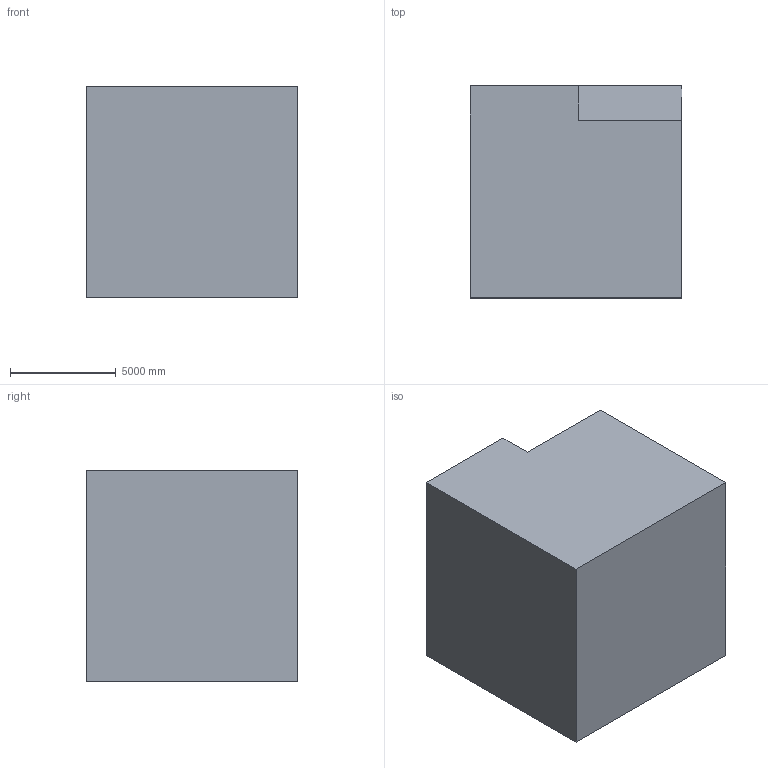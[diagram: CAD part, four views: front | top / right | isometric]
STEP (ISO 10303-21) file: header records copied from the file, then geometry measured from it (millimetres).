
FILE_DESCRIPTION (( 'STEP AP203' ), '1' );
FILE_NAME ('110.STEP', '2022-07-28T13:38:23', ( 'user' ), ( '' ), 'SwSTEP 2.0', 'SolidWorks 2021', '' );
FILE_SCHEMA (( 'CONFIG_CONTROL_DESIGN' ));
Length unit declared in the file: centimetre
Products named in the file (1): 110
Bounding box: 10000 x 10000 x 10000 mm (x, y, z)
Volume: 885613142002.6 mm3; surface area: 702088465.5 mm2
Topology: 1 solids, 1 shells, 11 faces, 24 edges, 16 vertices
Faces by surface type: plane 9, cylinder 2
Entity records: 379 total; most frequent: CARTESIAN_POINT 52, DIRECTION 52, ORIENTED_EDGE 48, EDGE_CURVE 24, VECTOR 20, LINE 20, VERTEX_POINT 16, AXIS2_PLACEMENT_3D 16
